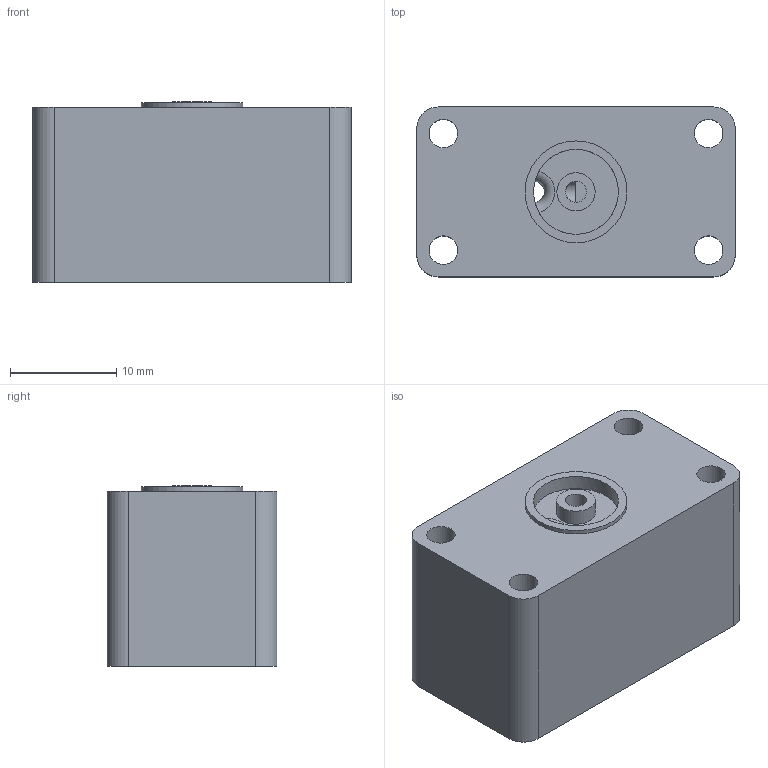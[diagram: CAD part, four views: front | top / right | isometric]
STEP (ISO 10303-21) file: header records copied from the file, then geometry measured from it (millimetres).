
FILE_DESCRIPTION(/* description */ (''),/* implementation_level */ '2;1');
FILE_NAME(/* name */ 'V:\Flow\Inventor\PEEK\BPR\BPR unten - PEEK.stp',/* time_stamp */ '2019-12-20T10:05:37+01:00',/* author */ ('JN'),/* organization */ (''),/* preprocessor_version */ 'ST-DEVELOPER v17',/* originating_system */ 'Autodesk Inventor 2018',/* authorisation */ '');
FILE_SCHEMA (('AUTOMOTIVE_DESIGN { 1 0 10303 214 3 1 1 }'));
Length unit declared in the file: millimetre
Products named in the file (1): BPR Feder
Bounding box: 30 x 16 x 17 mm (x, y, z)
Volume: 7126.4 mm3; surface area: 3370.9 mm2
Topology: 1 solids, 1 shells, 39 faces, 113 edges, 80 vertices
Faces by surface type: cylinder 20, plane 15, cone 2, bspline 1, torus 1
Full cylindrical faces by diameter (mm): 2 x5, 2.7 x4, 2.8 x2, 3.6 x1, 4.4 x2, 8 x1, 9.6 x1
Entity records: 1562 total; most frequent: CARTESIAN_POINT 394, DIRECTION 255, ORIENTED_EDGE 226, EDGE_CURVE 113, AXIS2_PLACEMENT_3D 109, VERTEX_POINT 80, CIRCLE 64, EDGE_LOOP 57
